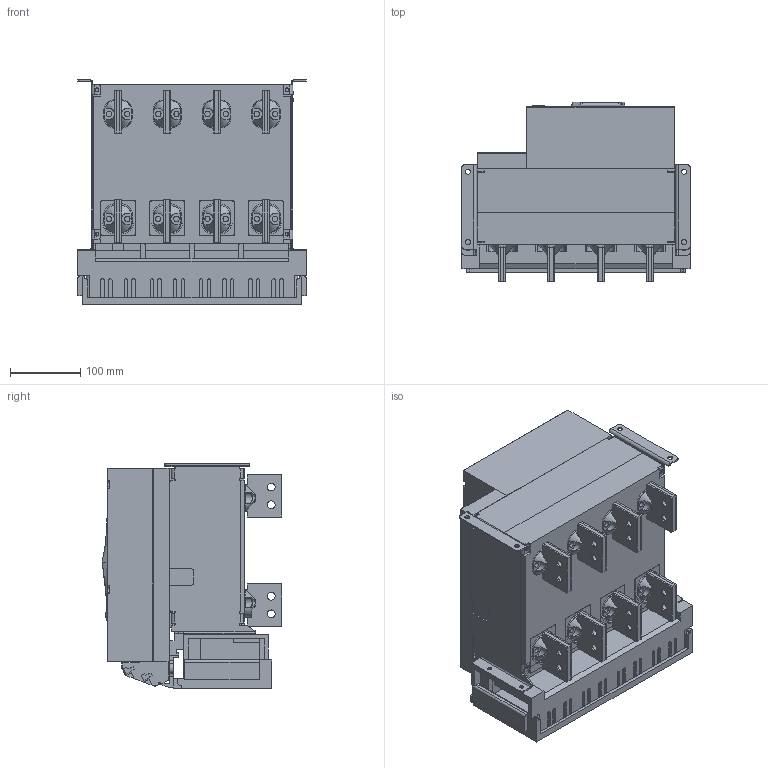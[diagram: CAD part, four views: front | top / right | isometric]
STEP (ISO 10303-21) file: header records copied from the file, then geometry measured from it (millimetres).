
FILE_DESCRIPTION((''),'2;1');
FILE_NAME('NA8G-1600-630-F-4P-V_ASM','2019-06-03T15:53:34',('lcc'),(''),'CREO PARAMETRIC BY PTC INC, 2018020','CREO PARAMETRIC BY PTC INC, 2018020','');
FILE_SCHEMA(('CONFIG_CONTROL_DESIGN','SHAPE_APPEARANCE_LAYERS_GROUPS'));
Products named in the file (20): 1600-JIZUO-4P; 1600-DIBAN-4P; 8-050-245; 8-050-246; 8-300-162-2; 8-005-238; 8-300-163; 8-015-020; 8ZTD-064-138; 8ZTD-024-689; 8ZTD-860-511; 1600-DUANZI-CTS_ASM; 8-253-348; 8-253-349; 5-235-147; 8-253-309; 8-211-087; 8ZTD-580-187-2; 8ZTD-580-189; NA8G-1600-630-F-4P-V_ASM
Assembly tree (49 placements, depth 3):
  NA8G-1600-630-F-4P-V_ASM
    1600-JIZUO-4P
    1600-DIBAN-4P
    8-050-245
    8-050-246
    8-300-162-2
    8-005-238
    8-300-163
    8-015-020
    1600-DUANZI-CTS_ASM
      8ZTD-064-138
      8ZTD-024-689  x14
      8ZTD-860-511
    8-253-348
    8-253-349
    5-235-147
    8-253-309
    8-211-087  x4
    8ZTD-580-187-2  x8
    8ZTD-580-189  x8
Bounding box: 324 x 255 x 318.5 mm (x, y, z)
Volume: 9188736.5 mm3; surface area: 1744314 mm2
Topology: 48 solids, 67 shells, 5704 faces, 15766 edges, 10339 vertices
Faces by surface type: plane 4503, cylinder 1098, cone 64, torus 18, bspline 10, sphere 10, extrusion 1
Entity records: 130825 total; most frequent: CARTESIAN_POINT 18855, ORIENTED_EDGE 17234, DIRECTION 16416, PRESENTATION_STYLE_ASSIGNMENT 9196, STYLED_ITEM 9181, CURVE_STYLE 8620, EDGE_CURVE 8620, VECTOR 7022
